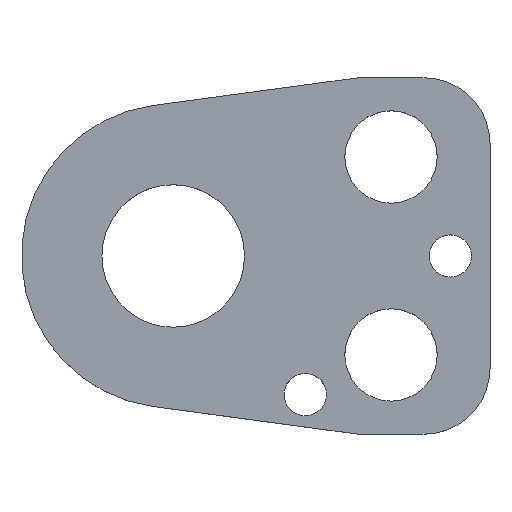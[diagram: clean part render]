
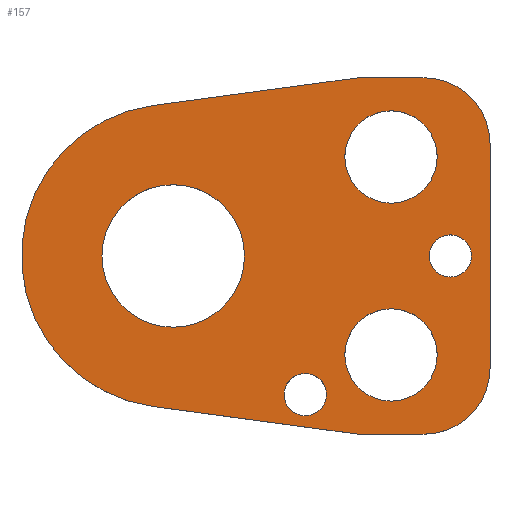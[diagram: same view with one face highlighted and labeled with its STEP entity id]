
A CAD part, top view. The second image highlights one B-rep face of the part: STEP entity #157.
In plain terms, the highlighted planar face has unit normal (0, 0, 1).
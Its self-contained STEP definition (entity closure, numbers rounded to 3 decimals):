
#103=FACE_BOUND('',#207,.T.);
#104=FACE_BOUND('',#208,.T.);
#105=FACE_BOUND('',#209,.T.);
#106=FACE_BOUND('',#210,.T.);
#107=FACE_BOUND('',#211,.T.);
#108=FACE_BOUND('',#212,.T.);
#122=CIRCLE('',#480,10.);
#124=CIRCLE('',#484,10.);
#127=CIRCLE('',#490,23.);
#138=CIRCLE('',#503,3.2);
#139=CIRCLE('',#504,3.2);
#140=CIRCLE('',#505,7.);
#141=CIRCLE('',#506,7.);
#142=CIRCLE('',#507,7.);
#143=CIRCLE('',#508,7.);
#144=CIRCLE('',#509,3.2);
#145=CIRCLE('',#510,3.2);
#146=CIRCLE('',#511,10.8);
#147=CIRCLE('',#512,10.8);
#157=ADVANCED_FACE('',(#103,#104,#105,#106,#107,#108),#174,.T.);
#174=PLANE('',#513);
#207=EDGE_LOOP('',(#273,#274,#275,#276,#277,#278,#279,#280));
#208=EDGE_LOOP('',(#281,#282));
#209=EDGE_LOOP('',(#283,#284));
#210=EDGE_LOOP('',(#285,#286));
#211=EDGE_LOOP('',(#287,#288));
#212=EDGE_LOOP('',(#289,#290));
#273=ORIENTED_EDGE('',*,*,#368,.T.);
#274=ORIENTED_EDGE('',*,*,#372,.T.);
#275=ORIENTED_EDGE('',*,*,#375,.T.);
#276=ORIENTED_EDGE('',*,*,#378,.T.);
#277=ORIENTED_EDGE('',*,*,#381,.T.);
#278=ORIENTED_EDGE('',*,*,#384,.T.);
#279=ORIENTED_EDGE('',*,*,#387,.T.);
#280=ORIENTED_EDGE('',*,*,#390,.T.);
#281=ORIENTED_EDGE('',*,*,#401,.T.);
#282=ORIENTED_EDGE('',*,*,#402,.T.);
#283=ORIENTED_EDGE('',*,*,#403,.T.);
#284=ORIENTED_EDGE('',*,*,#404,.T.);
#285=ORIENTED_EDGE('',*,*,#405,.T.);
#286=ORIENTED_EDGE('',*,*,#406,.T.);
#287=ORIENTED_EDGE('',*,*,#407,.T.);
#288=ORIENTED_EDGE('',*,*,#408,.T.);
#289=ORIENTED_EDGE('',*,*,#409,.T.);
#290=ORIENTED_EDGE('',*,*,#410,.T.);
#332=VERTEX_POINT('',#649);
#333=VERTEX_POINT('',#651);
#336=VERTEX_POINT('',#658);
#338=VERTEX_POINT('',#664);
#340=VERTEX_POINT('',#670);
#342=VERTEX_POINT('',#676);
#344=VERTEX_POINT('',#682);
#346=VERTEX_POINT('',#688);
#357=VERTEX_POINT('',#717);
#358=VERTEX_POINT('',#718);
#359=VERTEX_POINT('',#721);
#360=VERTEX_POINT('',#722);
#361=VERTEX_POINT('',#725);
#362=VERTEX_POINT('',#726);
#363=VERTEX_POINT('',#729);
#364=VERTEX_POINT('',#730);
#365=VERTEX_POINT('',#733);
#366=VERTEX_POINT('',#734);
#368=EDGE_CURVE('',#333,#332,#422,.T.);
#372=EDGE_CURVE('',#332,#336,#426,.T.);
#375=EDGE_CURVE('',#336,#338,#122,.T.);
#378=EDGE_CURVE('',#338,#340,#430,.T.);
#381=EDGE_CURVE('',#340,#342,#124,.T.);
#384=EDGE_CURVE('',#342,#344,#434,.T.);
#387=EDGE_CURVE('',#344,#346,#437,.T.);
#390=EDGE_CURVE('',#346,#333,#127,.T.);
#401=EDGE_CURVE('',#357,#358,#138,.T.);
#402=EDGE_CURVE('',#358,#357,#139,.T.);
#403=EDGE_CURVE('',#359,#360,#140,.T.);
#404=EDGE_CURVE('',#360,#359,#141,.T.);
#405=EDGE_CURVE('',#361,#362,#142,.T.);
#406=EDGE_CURVE('',#362,#361,#143,.T.);
#407=EDGE_CURVE('',#363,#364,#144,.T.);
#408=EDGE_CURVE('',#364,#363,#145,.T.);
#409=EDGE_CURVE('',#365,#366,#146,.T.);
#410=EDGE_CURVE('',#366,#365,#147,.T.);
#422=LINE('',#650,#450);
#426=LINE('',#659,#454);
#430=LINE('',#671,#458);
#434=LINE('',#683,#462);
#437=LINE('',#689,#465);
#450=VECTOR('',#527,1.);
#454=VECTOR('',#533,1.);
#458=VECTOR('',#545,1.);
#462=VECTOR('',#557,1.);
#465=VECTOR('',#562,1.);
#480=AXIS2_PLACEMENT_3D('',#665,#538,#539);
#484=AXIS2_PLACEMENT_3D('',#677,#550,#551);
#490=AXIS2_PLACEMENT_3D('',#693,#568,#569);
#503=AXIS2_PLACEMENT_3D('',#716,#594,#595);
#504=AXIS2_PLACEMENT_3D('',#719,#596,#597);
#505=AXIS2_PLACEMENT_3D('',#720,#598,#599);
#506=AXIS2_PLACEMENT_3D('',#723,#600,#601);
#507=AXIS2_PLACEMENT_3D('',#724,#602,#603);
#508=AXIS2_PLACEMENT_3D('',#727,#604,#605);
#509=AXIS2_PLACEMENT_3D('',#728,#606,#607);
#510=AXIS2_PLACEMENT_3D('',#731,#608,#609);
#511=AXIS2_PLACEMENT_3D('',#732,#610,#611);
#512=AXIS2_PLACEMENT_3D('',#735,#612,#613);
#513=AXIS2_PLACEMENT_3D('',#736,#614,#615);
#527=DIRECTION('',(0.991,-0.134,0.));
#533=DIRECTION('',(1.,0.,0.));
#538=DIRECTION('',(0.,0.,1.));
#539=DIRECTION('',(-0.707,0.707,0.));
#545=DIRECTION('',(0.,1.,0.));
#550=DIRECTION('',(0.,0.,1.));
#551=DIRECTION('',(-0.707,-0.707,0.));
#557=DIRECTION('',(-1.,0.,0.));
#562=DIRECTION('',(-0.991,-0.134,0.));
#568=DIRECTION('',(0.,0.,1.));
#569=DIRECTION('',(1.,0.,0.));
#594=DIRECTION('',(0.,0.,-1.));
#595=DIRECTION('',(-1.,0.,0.));
#596=DIRECTION('',(0.,0.,-1.));
#597=DIRECTION('',(1.,0.,0.));
#598=DIRECTION('',(0.,0.,-1.));
#599=DIRECTION('',(-1.,0.,0.));
#600=DIRECTION('',(0.,0.,-1.));
#601=DIRECTION('',(1.,0.,0.));
#602=DIRECTION('',(0.,0.,-1.));
#603=DIRECTION('',(-1.,0.,0.));
#604=DIRECTION('',(0.,0.,-1.));
#605=DIRECTION('',(1.,0.,0.));
#606=DIRECTION('',(0.,0.,-1.));
#607=DIRECTION('',(-1.,0.,0.));
#608=DIRECTION('',(0.,0.,-1.));
#609=DIRECTION('',(1.,0.,0.));
#610=DIRECTION('',(0.,0.,-1.));
#611=DIRECTION('',(-1.,0.,0.));
#612=DIRECTION('',(0.,0.,-1.));
#613=DIRECTION('',(1.,0.,0.));
#614=DIRECTION('',(0.,0.,1.));
#615=DIRECTION('',(0.991,-0.134,0.));
#649=CARTESIAN_POINT('',(28.,-27.,5.));
#650=CARTESIAN_POINT('',(28.,-27.,5.));
#651=CARTESIAN_POINT('',(-3.085,-22.792,5.));
#658=CARTESIAN_POINT('',(38.,-27.,5.));
#659=CARTESIAN_POINT('',(28.,-27.,5.));
#664=CARTESIAN_POINT('',(48.,-17.,5.));
#665=CARTESIAN_POINT('',(38.,-17.,5.));
#670=CARTESIAN_POINT('',(48.,17.,5.));
#671=CARTESIAN_POINT('',(48.,17.,5.));
#676=CARTESIAN_POINT('',(38.,27.,5.));
#677=CARTESIAN_POINT('',(38.,17.,5.));
#682=CARTESIAN_POINT('',(28.,27.,5.));
#683=CARTESIAN_POINT('',(28.,27.,5.));
#688=CARTESIAN_POINT('',(-3.085,22.792,5.));
#689=CARTESIAN_POINT('',(28.,27.,5.));
#693=CARTESIAN_POINT('',(0.,0.,5.));
#716=CARTESIAN_POINT('',(42.,0.,5.));
#717=CARTESIAN_POINT('',(42.,3.2,5.));
#718=CARTESIAN_POINT('',(42.,-3.2,5.));
#719=CARTESIAN_POINT('',(42.,0.,5.));
#720=CARTESIAN_POINT('',(33.,15.,5.));
#721=CARTESIAN_POINT('',(33.,22.,5.));
#722=CARTESIAN_POINT('',(33.,8.,5.));
#723=CARTESIAN_POINT('',(33.,15.,5.));
#724=CARTESIAN_POINT('',(33.,-15.,5.));
#725=CARTESIAN_POINT('',(33.,-8.,5.));
#726=CARTESIAN_POINT('',(33.,-22.,5.));
#727=CARTESIAN_POINT('',(33.,-15.,5.));
#728=CARTESIAN_POINT('',(20.,-21.,5.));
#729=CARTESIAN_POINT('',(20.,-17.8,5.));
#730=CARTESIAN_POINT('',(20.,-24.2,5.));
#731=CARTESIAN_POINT('',(20.,-21.,5.));
#732=CARTESIAN_POINT('',(0.,0.,5.));
#733=CARTESIAN_POINT('',(0.,10.8,5.));
#734=CARTESIAN_POINT('',(0.,-10.8,5.));
#735=CARTESIAN_POINT('',(0.,0.,5.));
#736=CARTESIAN_POINT('',(-3.085,-22.792,5.));
